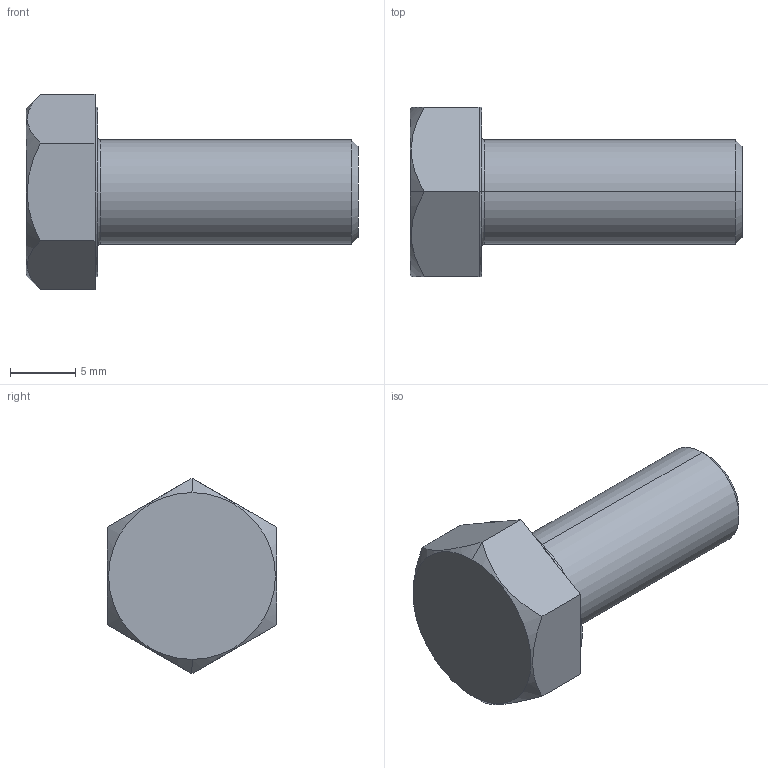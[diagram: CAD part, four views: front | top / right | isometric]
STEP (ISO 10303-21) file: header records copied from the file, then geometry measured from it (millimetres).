
FILE_DESCRIPTION (( 'STEP AP203' ), '1' );
FILE_NAME ('LGN-TD-M8x20.STEP', '2026-08-14T04:15:57', ( '' ), ( '' ), 'SwSTEP 2.0', 'SolidWorks 2020', '' );
FILE_SCHEMA (( 'CONFIG_CONTROL_DESIGN' ));
Length unit declared in the file: millimetre
Products named in the file (1): LGN-TD-M8x20
Bounding box: 25.5 x 13 x 15.01 mm (x, y, z)
Volume: 1799.2 mm3; surface area: 1019.8 mm2
Topology: 1 solids, 1 shells, 25 faces, 54 edges, 32 vertices
Faces by surface type: plane 15, cone 4, cylinder 4, torus 2
Entity records: 809 total; most frequent: CARTESIAN_POINT 182, DIRECTION 122, ORIENTED_EDGE 108, EDGE_CURVE 54, AXIS2_PLACEMENT_3D 48, VERTEX_POINT 32, EDGE_LOOP 26, VECTOR 26
